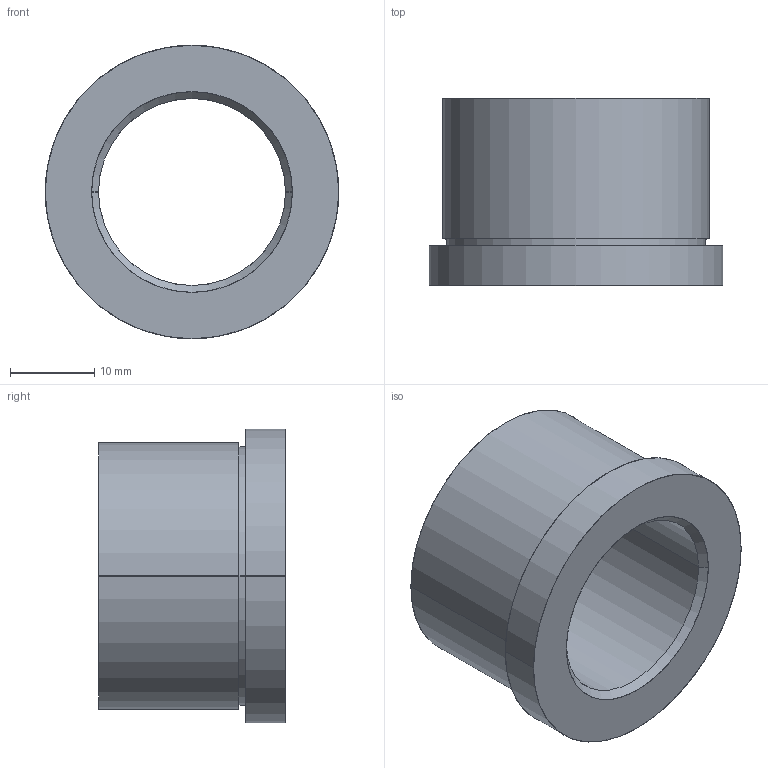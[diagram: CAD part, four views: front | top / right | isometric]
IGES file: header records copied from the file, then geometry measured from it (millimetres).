
Start section: SolidWorks IGES file using analytic representation for surfaces
Global section: file name: C:\Users\Ryan\Documents\PCS\Shoulder Bushings\BU-200.igs; native system: SolidWorks 2009; preprocessor: SolidWorks 2009; author: Ryan; date: 140226.220444; units: inch
Bounding box: 34.92 x 22.23 x 34.92 mm (x, y, z)
Surface area: 4977.1 mm2 (no closed solid volume)
Topology: 0 solids, 0 shells, 16 faces, 496 edges, 496 vertices
Faces by surface type: revolution 10, bspline 6
